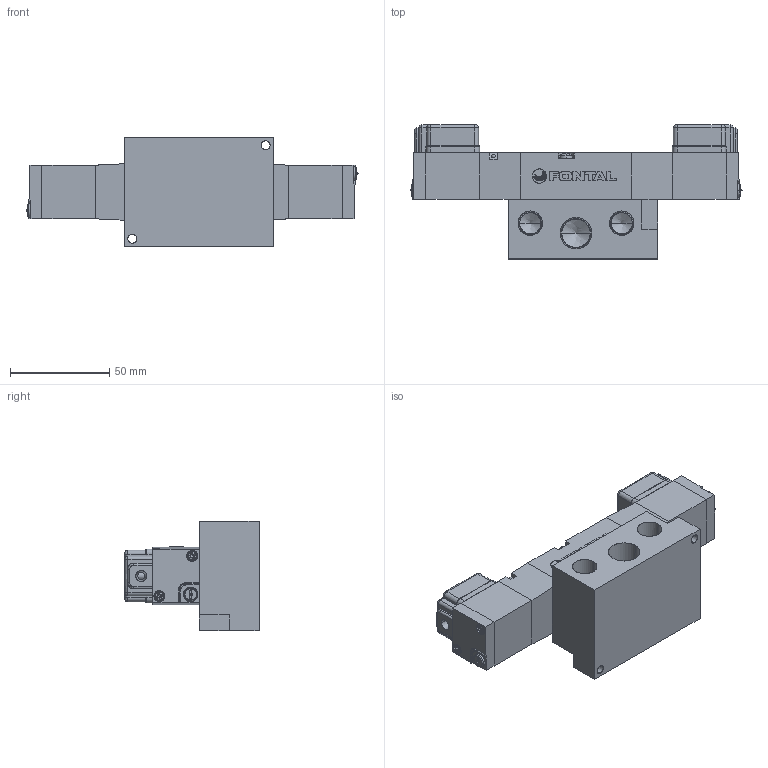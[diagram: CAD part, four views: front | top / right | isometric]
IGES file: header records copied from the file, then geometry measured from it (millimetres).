
Start section: SolidWorks IGES file using analytic representation for surfaces
Global section: file name: D:\Custom\3D繪製\PC\PC08\PCD2408#-03-#G#.IGS,1; native system: 5HSolidWorks 2014; preprocessor: SolidWorks 2014; author: Chieh_Lu; date: 150801.025826; units: millimetre
Bounding box: 166.95 x 67.5 x 55 mm (x, y, z)
Surface area: 55913.9 mm2 (no closed solid volume)
Topology: 0 solids, 0 shells, 678 faces, 6350 edges, 6314 vertices
Faces by surface type: bspline 416, revolution 262
